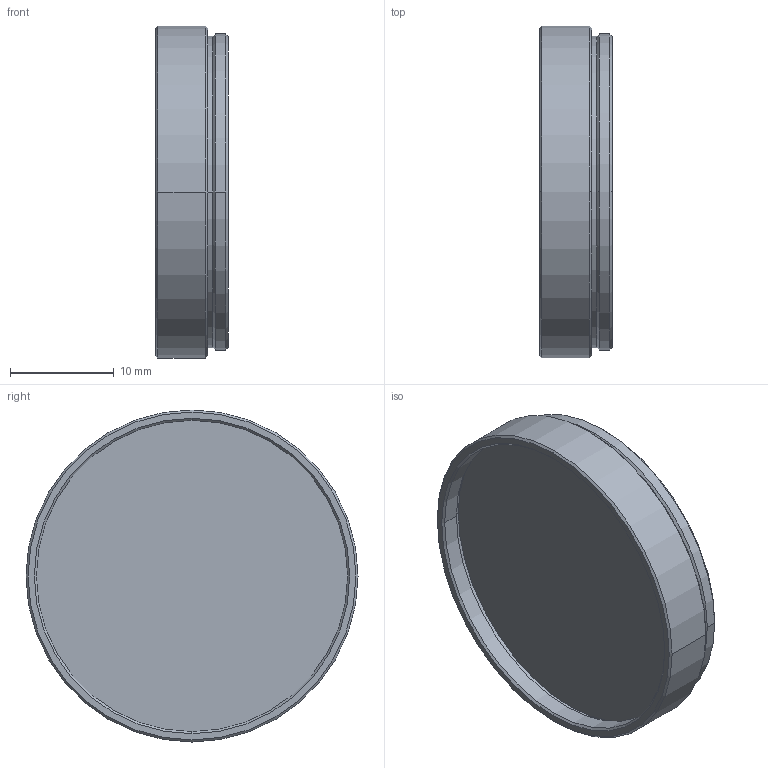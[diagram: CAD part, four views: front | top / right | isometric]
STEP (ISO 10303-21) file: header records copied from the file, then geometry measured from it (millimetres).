
FILE_DESCRIPTION (( 'STEP AP203' ), '1' );
FILE_NAME ('SV-□□□-305(GA_G533_R60series).STEP', '2017-08-22T00:39:54', ( 'miura_vst' ), ( '' ), 'SwSTEP 2.0', 'SolidWorks 2017', '' );
FILE_SCHEMA (( 'CONFIG_CONTROL_DESIGN' ));
Length unit declared in the file: millimetre
Products named in the file (1): SV-□□□-305(GA_G533_R60series)
Bounding box: 7 x 32 x 32 mm (x, y, z)
Volume: 3821.1 mm3; surface area: 2551.7 mm2
Topology: 1 solids, 1 shells, 25 faces, 60 edges, 40 vertices
Faces by surface type: cone 10, cylinder 10, plane 5
Entity records: 831 total; most frequent: DIRECTION 152, CARTESIAN_POINT 126, ORIENTED_EDGE 120, AXIS2_PLACEMENT_3D 66, EDGE_CURVE 60, CIRCLE 40, VERTEX_POINT 40, EDGE_LOOP 28
